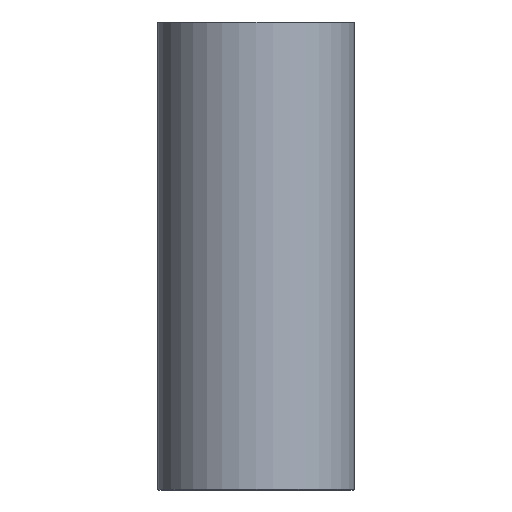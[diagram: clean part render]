
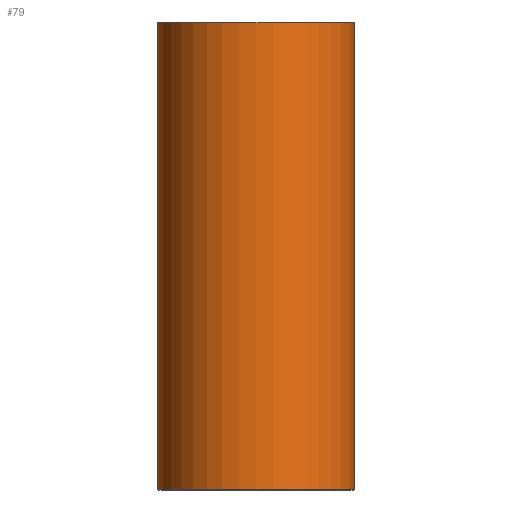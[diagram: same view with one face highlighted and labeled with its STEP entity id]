
A CAD part, front view. The second image highlights one B-rep face of the part: STEP entity #79.
In plain terms, the highlighted cylindrical face has radius 20 mm (diameter 40 mm), a full revolution.
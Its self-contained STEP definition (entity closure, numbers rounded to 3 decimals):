
#79=ADVANCED_FACE('',(#96,#97),#98,.T.);
#96=FACE_OUTER_BOUND('',#120,.T.);
#97=FACE_OUTER_BOUND('',#121,.T.);
#98=CYLINDRICAL_SURFACE('',#122,20.0);
#120=EDGE_LOOP('',(#152));
#121=EDGE_LOOP('',(#153));
#122=AXIS2_PLACEMENT_3D('',#154,#155,#156);
#152=ORIENTED_EDGE('',*,*,#178,.T.);
#153=ORIENTED_EDGE('',*,*,#177,.T.);
#154=CARTESIAN_POINT('',(0.,0.0,95.0));
#155=DIRECTION('',(0.0,0.0,-1.0));
#156=DIRECTION('',(-1.0,0.0,0.0));
#177=EDGE_CURVE('',#190,#190,#191,.T.);
#178=EDGE_CURVE('',#192,#192,#193,.F.);
#190=VERTEX_POINT('',#206);
#191=CIRCLE('',#207,20.0);
#192=VERTEX_POINT('',#208);
#193=CIRCLE('',#209,20.0);
#206=CARTESIAN_POINT('',(20.0,0.0,0.2));
#207=AXIS2_PLACEMENT_3D('',#227,#228,#229);
#208=CARTESIAN_POINT('',(20.0,0.,94.8));
#209=AXIS2_PLACEMENT_3D('',#230,#231,#232);
#227=CARTESIAN_POINT('',(0.,0.0,0.2));
#228=DIRECTION('',(0.0,0.0,1.0));
#229=DIRECTION('',(1.0,0.0,0.0));
#230=CARTESIAN_POINT('',(0.,0.0,94.8));
#231=DIRECTION('',(0.0,0.0,1.0));
#232=DIRECTION('',(1.0,0.0,0.0));
